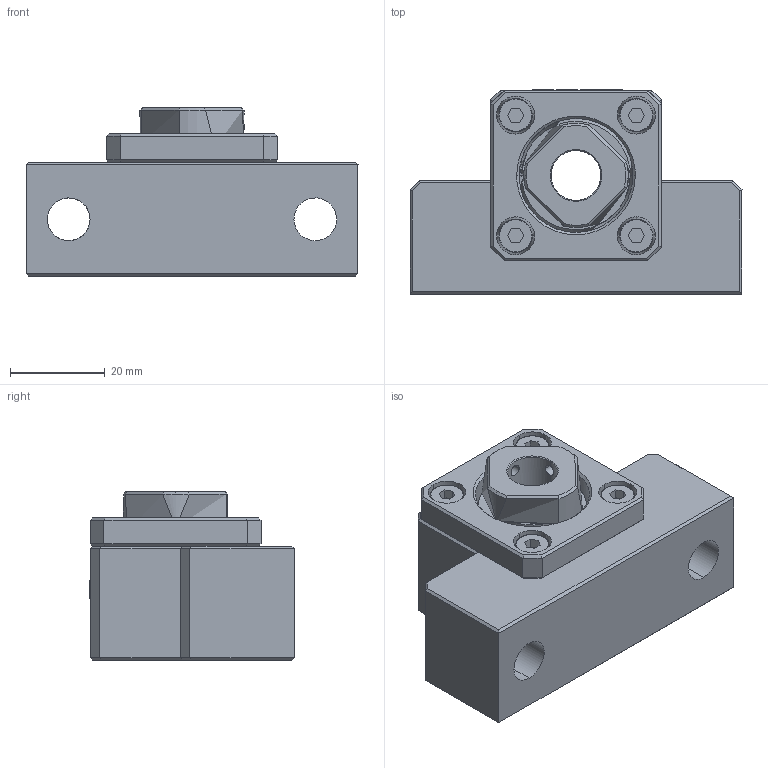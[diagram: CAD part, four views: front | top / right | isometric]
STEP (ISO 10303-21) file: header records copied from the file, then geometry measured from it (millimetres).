
FILE_DESCRIPTION (( 'STEP AP214' ), '1' );
FILE_NAME ('7.4030 EK12.STEP', '2026-03-06T07:59:01', ( '' ), ( '' ), 'SwSTEP 2.0', 'SolidWorks 2025', '' );
FILE_SCHEMA (( 'AUTOMOTIVE_DESIGN' ));
Length unit declared in the file: millimetre
Products named in the file (1): 7.4030 EK12
Bounding box: 70 x 43.1 x 35.5 mm (x, y, z)
Surface area: 16865.6 mm2 (no closed solid volume)
Topology: 0 solids, 11 shells, 253 faces, 683 edges, 432 vertices
Faces by surface type: plane 131, cylinder 47, cone 39, bspline 34, sphere 2
Entity records: 13410 total; most frequent: CARTESIAN_POINT 8542, ORIENTED_EDGE 1251, EDGE_CURVE 667, B_SPLINE_CURVE_WITH_KNOTS 634, DIRECTION 444, VERTEX_POINT 432, EDGE_LOOP 283, ADVANCED_FACE 253
